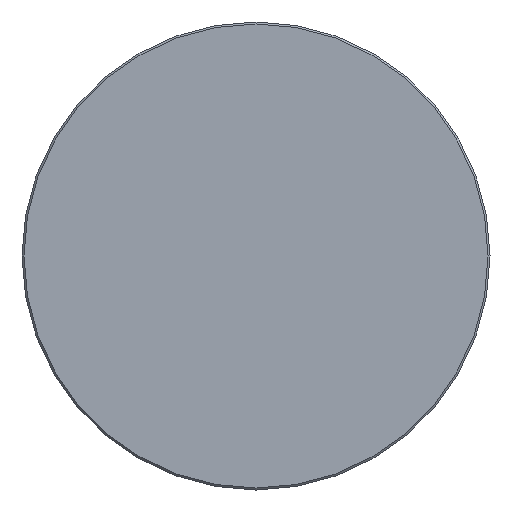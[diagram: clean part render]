
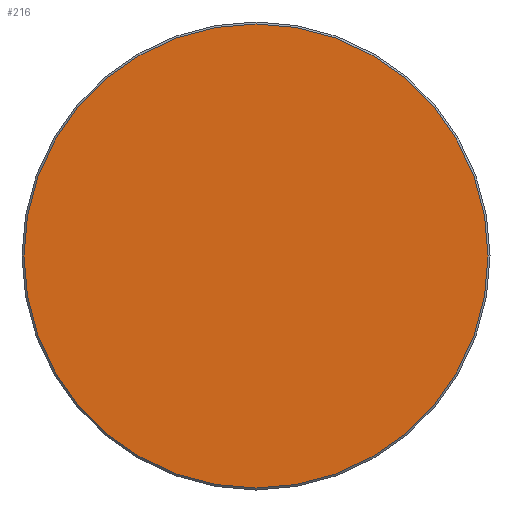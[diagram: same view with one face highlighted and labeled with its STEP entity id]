
A CAD part, left-side view. The second image highlights one B-rep face of the part: STEP entity #216.
In plain terms, the highlighted planar face has unit normal (-1, 0, 0).
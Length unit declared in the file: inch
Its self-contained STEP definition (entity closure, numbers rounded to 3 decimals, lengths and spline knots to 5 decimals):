
#10 = CIRCLE ( 'NONE', #322, 0.46475 ) ;
#44 = DIRECTION ( 'NONE',  ( -1., 0., 0. ) ) ;
#65 = DIRECTION ( 'NONE',  ( 0., -1., 0. ) ) ;
#94 = CARTESIAN_POINT ( 'NONE',  ( 0., 0., 0. ) ) ;
#117 = EDGE_CURVE ( 'NONE', #352, #327, #186, .T. ) ;
#118 = EDGE_LOOP ( 'NONE', ( #155, #190 ) ) ;
#120 = PLANE ( 'NONE',  #353 ) ;
#155 = ORIENTED_EDGE ( 'NONE', *, *, #202, .T. ) ;
#167 = DIRECTION ( 'NONE',  ( -1., 0., 0. ) ) ;
#175 = CARTESIAN_POINT ( 'NONE',  ( 0., 0., 0. ) ) ;
#186 = CIRCLE ( 'NONE', #380, 0.46475 ) ;
#190 = ORIENTED_EDGE ( 'NONE', *, *, #117, .T. ) ;
#202 = EDGE_CURVE ( 'NONE', #327, #352, #10, .T. ) ;
#206 = DIRECTION ( 'NONE',  ( -1., 0., 0. ) ) ;
#211 = DIRECTION ( 'NONE',  ( 0., -1., 0. ) ) ;
#216 = ADVANCED_FACE ( 'NONE', ( #308 ), #120, .T. ) ;
#226 = CARTESIAN_POINT ( 'NONE',  ( 0., 0.46475, 0. ) ) ;
#259 = CARTESIAN_POINT ( 'NONE',  ( 0., -0.46475, 0. ) ) ;
#267 = DIRECTION ( 'NONE',  ( 0., -1., 0. ) ) ;
#308 = FACE_OUTER_BOUND ( 'NONE', #118, .T. ) ;
#322 = AXIS2_PLACEMENT_3D ( 'NONE', #175, #206, #65 ) ;
#327 = VERTEX_POINT ( 'NONE', #226 ) ;
#342 = CARTESIAN_POINT ( 'NONE',  ( 0., 0., 0. ) ) ;
#352 = VERTEX_POINT ( 'NONE', #259 ) ;
#353 = AXIS2_PLACEMENT_3D ( 'NONE', #94, #44, #211 ) ;
#380 = AXIS2_PLACEMENT_3D ( 'NONE', #342, #167, #267 ) ;
